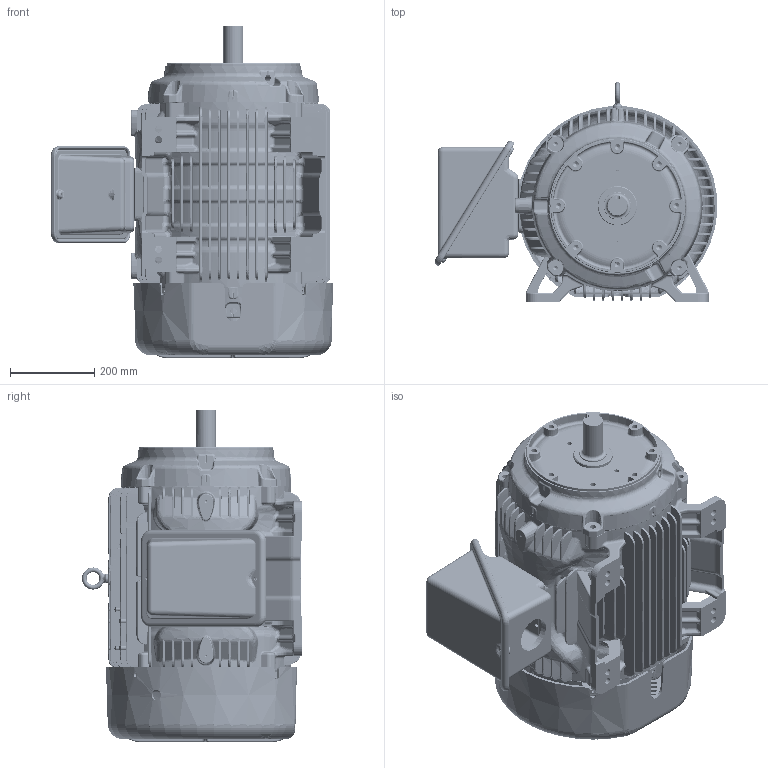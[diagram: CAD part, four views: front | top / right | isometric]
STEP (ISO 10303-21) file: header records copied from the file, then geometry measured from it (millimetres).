
FILE_DESCRIPTION((''),'2;1');
FILE_NAME('CFACE_ASSY_ASM','2014-06-19T',('NMC779F'),('Nidec Motor Corporation'),'PRO/ENGINEER BY PARAMETRIC TECHNOLOGY CORPORATION, 2013150','PRO/ENGINEER BY PARAMETRIC TECHNOLOGY CORPORATION, 2013150','');
FILE_SCHEMA(('CONFIG_CONTROL_DESIGN'));
Products named in the file (11): 0997397; 0424882; 360_INPRO; 0132115; 0424894; 0997388; 0997813; 0133166; 0997314; 0997312; CFACE_ASSY_ASM
Assembly tree (10 placements, depth 2):
  CFACE_ASSY_ASM
    0997397
    0424882
    360_INPRO
    0132115
    0424894
    0997388
    0997813
    0133166
    0997314
    0997312
Bounding box: 671.45 x 522.33 x 788.26 mm (x, y, z)
Volume: 22857200.2 mm3; surface area: 5140929.8 mm2
Topology: 12 solids, 12 shells, 6888 faces, 17012 edges, 10108 vertices
Faces by surface type: bspline 2485, plane 1160, cylinder 1141, torus 863, extrusion 642, cone 417, sphere 180
Entity records: 338376 total; most frequent: CARTESIAN_POINT 197340, ORIENTED_EDGE 33872, DIRECTION 22145, EDGE_CURVE 16936, VERTEX_POINT 10108, AXIS2_PLACEMENT_3D 8432, B_SPLINE_CURVE_WITH_KNOTS 8289, EDGE_LOOP 7142
